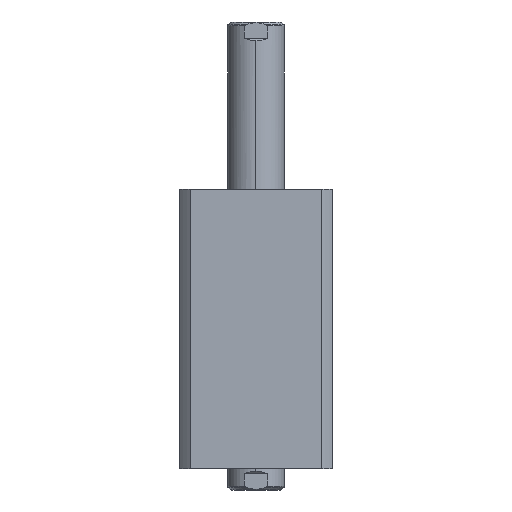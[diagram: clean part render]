
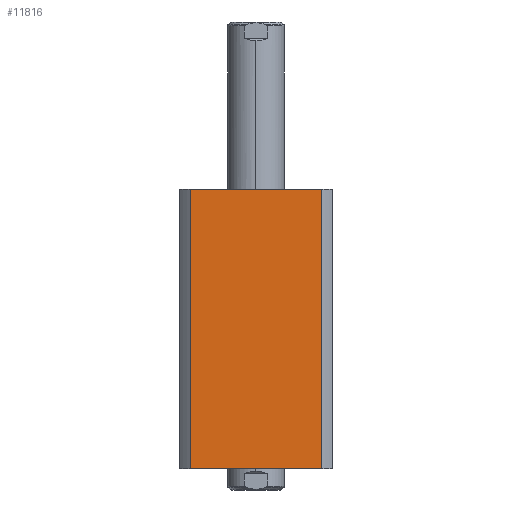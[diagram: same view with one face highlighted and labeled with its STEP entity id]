
A CAD part, left-side view. The second image highlights one B-rep face of the part: STEP entity #11816.
In plain terms, the highlighted planar face has unit normal (-1, 0, 0).
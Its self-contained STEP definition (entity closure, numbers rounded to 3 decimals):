
#766 = VERTEX_POINT ( 'NONE', #15513 ) ;
#869 = VECTOR ( 'NONE', #12557, 1000. ) ;
#1618 = EDGE_CURVE ( 'NONE', #2701, #17136, #7920, .T. ) ;
#1744 = CARTESIAN_POINT ( 'NONE',  ( -47., 47., 172. ) ) ;
#2192 = LINE ( 'NONE', #16713, #5982 ) ;
#2399 = VECTOR ( 'NONE', #12508, 1000. ) ;
#2558 = CARTESIAN_POINT ( 'NONE',  ( -47., 47., 172. ) ) ;
#2701 = VERTEX_POINT ( 'NONE', #3733 ) ;
#3110 = PLANE ( 'NONE',  #6953 ) ;
#3112 = CARTESIAN_POINT ( 'NONE',  ( -47., -40.435, 0. ) ) ;
#3170 = DIRECTION ( 'NONE',  ( 1., 0., 0. ) ) ;
#3657 = CARTESIAN_POINT ( 'NONE',  ( -47., 40.435, 300. ) ) ;
#3733 = CARTESIAN_POINT ( 'NONE',  ( -47., 40.435, 0. ) ) ;
#3953 = CARTESIAN_POINT ( 'NONE',  ( -47., 47., 0. ) ) ;
#4637 = ORIENTED_EDGE ( 'NONE', *, *, #1618, .F. ) ;
#5127 = LINE ( 'NONE', #2558, #869 ) ;
#5570 = ORIENTED_EDGE ( 'NONE', *, *, #6306, .F. ) ;
#5982 = VECTOR ( 'NONE', #11105, 1000. ) ;
#6209 = LINE ( 'NONE', #3953, #2399 ) ;
#6306 = EDGE_CURVE ( 'NONE', #766, #13935, #2192, .T. ) ;
#6550 = DIRECTION ( 'NONE',  ( 0., 0., 1. ) ) ;
#6953 = AXIS2_PLACEMENT_3D ( 'NONE', #1744, #3170, #13169 ) ;
#7046 = EDGE_CURVE ( 'NONE', #2701, #13935, #6209, .T. ) ;
#7920 = LINE ( 'NONE', #3657, #15046 ) ;
#9498 = ORIENTED_EDGE ( 'NONE', *, *, #7046, .T. ) ;
#9623 = ORIENTED_EDGE ( 'NONE', *, *, #12629, .F. ) ;
#10049 = FACE_OUTER_BOUND ( 'NONE', #15855, .T. ) ;
#11105 = DIRECTION ( 'NONE',  ( 0., 0., -1. ) ) ;
#11816 = ADVANCED_FACE ( 'NONE', ( #10049 ), #3110, .F. ) ;
#12508 = DIRECTION ( 'NONE',  ( 0., -1., 0. ) ) ;
#12557 = DIRECTION ( 'NONE',  ( 0., -1., 0. ) ) ;
#12629 = EDGE_CURVE ( 'NONE', #17136, #766, #5127, .T. ) ;
#13169 = DIRECTION ( 'NONE',  ( 0., 1., 0. ) ) ;
#13935 = VERTEX_POINT ( 'NONE', #3112 ) ;
#15046 = VECTOR ( 'NONE', #6550, 1000. ) ;
#15513 = CARTESIAN_POINT ( 'NONE',  ( -47., -40.435, 172. ) ) ;
#15855 = EDGE_LOOP ( 'NONE', ( #5570, #9623, #4637, #9498 ) ) ;
#16713 = CARTESIAN_POINT ( 'NONE',  ( -47., -40.435, 300. ) ) ;
#17136 = VERTEX_POINT ( 'NONE', #17967 ) ;
#17967 = CARTESIAN_POINT ( 'NONE',  ( -47., 40.435, 172. ) ) ;
